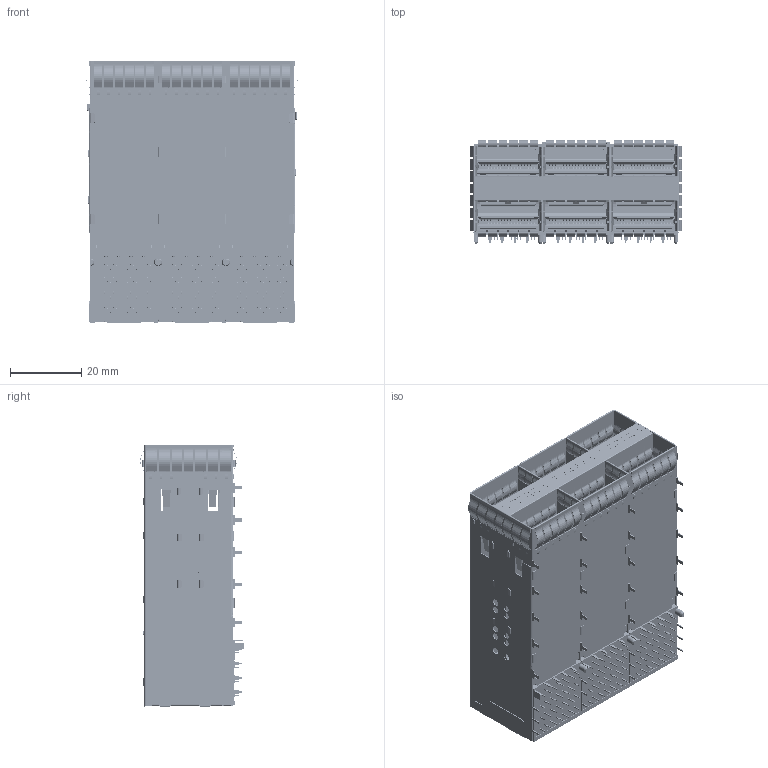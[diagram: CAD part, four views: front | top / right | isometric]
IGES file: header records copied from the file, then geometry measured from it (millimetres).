
Start section:  PTC IGES file: c-2227668-3-a-3d.igs
Global section: file name: c-2227668-3-a-3d.igs; native system: Creo Parametric by PTC Inc.; preprocessor: 2016050; author: workeradm; organization: Unknown; units: millimetre
Bounding box: 59.47 x 29.01 x 73.54 mm (x, y, z)
Surface area: 54893.6 mm2 (no closed solid volume)
Topology: 0 solids, 0 shells, 9929 faces, 56576 edges, 56576 vertices
Faces by surface type: bspline 6373, revolution 3556
